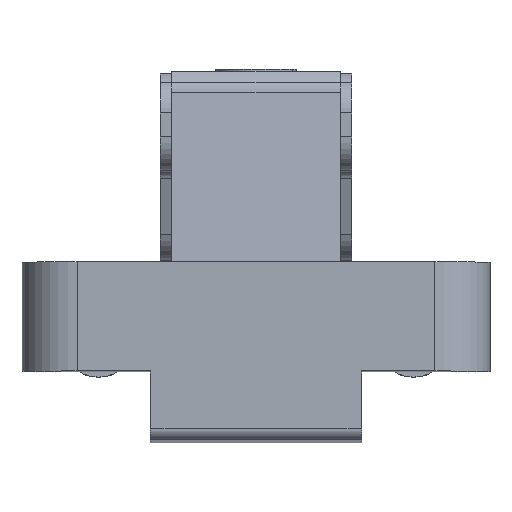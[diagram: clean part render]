
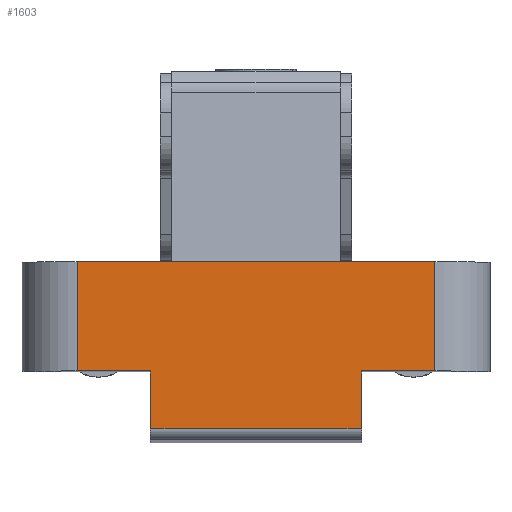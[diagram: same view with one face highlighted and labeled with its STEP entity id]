
A CAD part, top view. The second image highlights one B-rep face of the part: STEP entity #1603.
In plain terms, the highlighted planar face has unit normal (0, 0.006, 1).
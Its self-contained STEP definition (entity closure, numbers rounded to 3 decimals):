
#9 = EDGE_CURVE ( 'NONE', #2913, #3874, #2359, .T. ) ;
#10 = CARTESIAN_POINT ( 'NONE',  ( 15.9, -3.807, 53.734 ) ) ;
#82 = CARTESIAN_POINT ( 'NONE',  ( 7.9, -18.632, 53.826 ) ) ;
#95 = ORIENTED_EDGE ( 'NONE', *, *, #2714, .F. ) ;
#104 = VERTEX_POINT ( 'NONE', #4845 ) ;
#106 = VERTEX_POINT ( 'NONE', #922 ) ;
#221 = CARTESIAN_POINT ( 'NONE',  ( -4.75, -18.632, 53.826 ) ) ;
#266 = B_SPLINE_CURVE_WITH_KNOTS ( 'NONE', 3,
 ( #221, #2635, #3053, #2198 ),
 .UNSPECIFIED., .F., .F.,
 ( 4, 4 ),
 ( 0., 1. ),
 .UNSPECIFIED. ) ;
#449 = DIRECTION ( 'NONE',  ( 1., 0., 0. ) ) ;
#480 = LINE ( 'NONE', #2046, #716 ) ;
#553 = EDGE_CURVE ( 'NONE', #104, #106, #4436, .T. ) ;
#627 = ORIENTED_EDGE ( 'NONE', *, *, #4126, .T. ) ;
#716 = VECTOR ( 'NONE', #4049, 1000. ) ;
#814 = CARTESIAN_POINT ( 'NONE',  ( -5.8, -18.632, 53.826 ) ) ;
#870 = ORIENTED_EDGE ( 'NONE', *, *, #553, .F. ) ;
#901 = VECTOR ( 'NONE', #4912, 1000. ) ;
#922 = CARTESIAN_POINT ( 'NONE',  ( -9.4, -13.507, 53.795 ) ) ;
#962 = LINE ( 'NONE', #3360, #901 ) ;
#1036 = VECTOR ( 'NONE', #4407, 1000. ) ;
#1072 = ORIENTED_EDGE ( 'NONE', *, *, #1801, .F. ) ;
#1118 = VERTEX_POINT ( 'NONE', #2205 ) ;
#1137 = VECTOR ( 'NONE', #2232, 1000. ) ;
#1200 = CARTESIAN_POINT ( 'NONE',  ( 28.92, -18.632, 53.826 ) ) ;
#1223 = VECTOR ( 'NONE', #3868, 1000. ) ;
#1347 = ORIENTED_EDGE ( 'NONE', *, *, #9, .F. ) ;
#1359 = EDGE_CURVE ( 'NONE', #4707, #104, #480, .T. ) ;
#1465 = CARTESIAN_POINT ( 'NONE',  ( -15.9, -3.807, 53.734 ) ) ;
#1515 = LINE ( 'NONE', #1465, #1626 ) ;
#1565 = CARTESIAN_POINT ( 'NONE',  ( 9.4, -7.707, 53.759 ) ) ;
#1603 = ADVANCED_FACE ( 'NONE', ( #2755 ), #5063, .F. ) ;
#1626 = VECTOR ( 'NONE', #1842, 1000. ) ;
#1639 = VERTEX_POINT ( 'NONE', #4923 ) ;
#1692 = ORIENTED_EDGE ( 'NONE', *, *, #1359, .F. ) ;
#1697 = VECTOR ( 'NONE', #4329, 1000. ) ;
#1801 = EDGE_CURVE ( 'NONE', #3874, #4199, #2663, .T. ) ;
#1802 = CARTESIAN_POINT ( 'NONE',  ( -4.75, -18.632, 53.826 ) ) ;
#1842 = DIRECTION ( 'NONE',  ( 0., -1., 0.006 ) ) ;
#1886 = DIRECTION ( 'NONE',  ( -1., 0., 0. ) ) ;
#1988 = CARTESIAN_POINT ( 'NONE',  ( -6.85, -18.632, 53.826 ) ) ;
#2046 = CARTESIAN_POINT ( 'NONE',  ( 28.92, -18.632, 53.826 ) ) ;
#2070 = ORIENTED_EDGE ( 'NONE', *, *, #4277, .T. ) ;
#2078 = EDGE_LOOP ( 'NONE', ( #1347, #2070, #95, #4422, #627, #2200, #870, #1692, #4315, #4984, #1072 ) ) ;
#2151 = EDGE_CURVE ( 'NONE', #3962, #4199, #266, .T. ) ;
#2198 = CARTESIAN_POINT ( 'NONE',  ( 7.9, -18.632, 53.826 ) ) ;
#2200 = ORIENTED_EDGE ( 'NONE', *, *, #2483, .T. ) ;
#2205 = CARTESIAN_POINT ( 'NONE',  ( -15.9, -3.807, 53.734 ) ) ;
#2232 = DIRECTION ( 'NONE',  ( 1., 0., 0. ) ) ;
#2246 = EDGE_CURVE ( 'NONE', #4707, #3962, #2768, .T. ) ;
#2254 = LINE ( 'NONE', #2686, #1137 ) ;
#2294 = LINE ( 'NONE', #10, #1223 ) ;
#2359 = LINE ( 'NONE', #1565, #4064 ) ;
#2431 = CARTESIAN_POINT ( 'NONE',  ( -9.4, -7.707, 53.759 ) ) ;
#2483 = EDGE_CURVE ( 'NONE', #2642, #106, #2856, .T. ) ;
#2578 = VERTEX_POINT ( 'NONE', #3737 ) ;
#2613 = VECTOR ( 'NONE', #449, 1000. ) ;
#2635 = CARTESIAN_POINT ( 'NONE',  ( -0.533, -18.632, 53.826 ) ) ;
#2642 = VERTEX_POINT ( 'NONE', #4876 ) ;
#2663 = LINE ( 'NONE', #1200, #1697 ) ;
#2686 = CARTESIAN_POINT ( 'NONE',  ( -15.9, -3.807, 53.734 ) ) ;
#2714 = EDGE_CURVE ( 'NONE', #1639, #2578, #2294, .T. ) ;
#2755 = FACE_OUTER_BOUND ( 'NONE', #2078, .T. ) ;
#2768 = B_SPLINE_CURVE_WITH_KNOTS ( 'NONE', 3,
 ( #4276, #1988, #814, #3922 ),
 .UNSPECIFIED., .F., .F.,
 ( 4, 4 ),
 ( 0., 1. ),
 .UNSPECIFIED. ) ;
#2794 = DIRECTION ( 'NONE',  ( 0., -1., 0.006 ) ) ;
#2856 = LINE ( 'NONE', #4783, #2613 ) ;
#2913 = VERTEX_POINT ( 'NONE', #3657 ) ;
#3017 = AXIS2_PLACEMENT_3D ( 'NONE', #4321, #4609, #1886 ) ;
#3053 = CARTESIAN_POINT ( 'NONE',  ( 3.683, -18.632, 53.826 ) ) ;
#3360 = CARTESIAN_POINT ( 'NONE',  ( -15.9, -13.507, 53.795 ) ) ;
#3434 = EDGE_CURVE ( 'NONE', #1118, #1639, #2254, .T. ) ;
#3657 = CARTESIAN_POINT ( 'NONE',  ( 9.4, -13.507, 53.795 ) ) ;
#3736 = CARTESIAN_POINT ( 'NONE',  ( -7.9, -18.632, 53.826 ) ) ;
#3737 = CARTESIAN_POINT ( 'NONE',  ( 15.9, -13.507, 53.795 ) ) ;
#3868 = DIRECTION ( 'NONE',  ( 0., -1., 0.006 ) ) ;
#3874 = VERTEX_POINT ( 'NONE', #4449 ) ;
#3922 = CARTESIAN_POINT ( 'NONE',  ( -4.75, -18.632, 53.826 ) ) ;
#3962 = VERTEX_POINT ( 'NONE', #1802 ) ;
#4049 = DIRECTION ( 'NONE',  ( -1., 0., 0. ) ) ;
#4064 = VECTOR ( 'NONE', #2794, 1000. ) ;
#4126 = EDGE_CURVE ( 'NONE', #1118, #2642, #1515, .T. ) ;
#4199 = VERTEX_POINT ( 'NONE', #82 ) ;
#4276 = CARTESIAN_POINT ( 'NONE',  ( -7.9, -18.632, 53.826 ) ) ;
#4277 = EDGE_CURVE ( 'NONE', #2913, #2578, #962, .T. ) ;
#4315 = ORIENTED_EDGE ( 'NONE', *, *, #2246, .T. ) ;
#4321 = CARTESIAN_POINT ( 'NONE',  ( -15.9, -3.807, 53.734 ) ) ;
#4329 = DIRECTION ( 'NONE',  ( -1., 0., 0. ) ) ;
#4407 = DIRECTION ( 'NONE',  ( 0., 1., -0.006 ) ) ;
#4422 = ORIENTED_EDGE ( 'NONE', *, *, #3434, .F. ) ;
#4436 = LINE ( 'NONE', #2431, #1036 ) ;
#4449 = CARTESIAN_POINT ( 'NONE',  ( 9.4, -18.632, 53.826 ) ) ;
#4609 = DIRECTION ( 'NONE',  ( 0., -0.006, -1. ) ) ;
#4707 = VERTEX_POINT ( 'NONE', #3736 ) ;
#4783 = CARTESIAN_POINT ( 'NONE',  ( -15.9, -13.507, 53.795 ) ) ;
#4845 = CARTESIAN_POINT ( 'NONE',  ( -9.4, -18.632, 53.826 ) ) ;
#4876 = CARTESIAN_POINT ( 'NONE',  ( -15.9, -13.507, 53.795 ) ) ;
#4912 = DIRECTION ( 'NONE',  ( 1., 0., 0. ) ) ;
#4923 = CARTESIAN_POINT ( 'NONE',  ( 15.9, -3.807, 53.734 ) ) ;
#4984 = ORIENTED_EDGE ( 'NONE', *, *, #2151, .T. ) ;
#5063 = PLANE ( 'NONE',  #3017 ) ;
